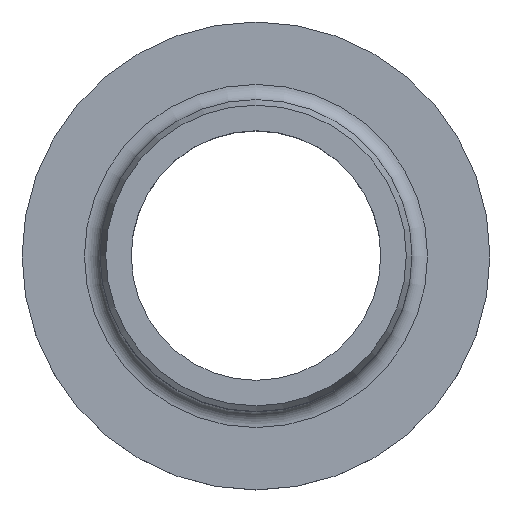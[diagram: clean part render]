
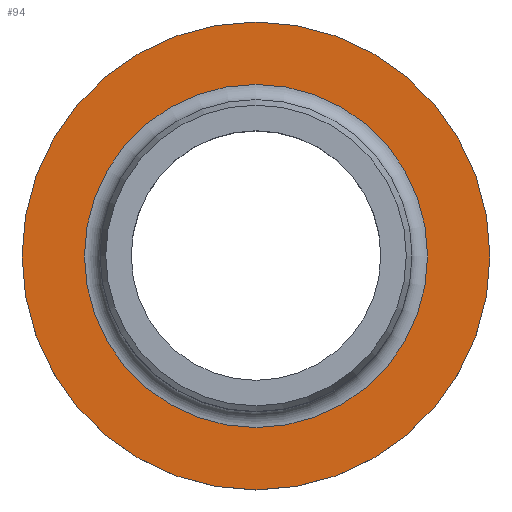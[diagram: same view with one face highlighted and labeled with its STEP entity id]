
A CAD part, top view. The second image highlights one B-rep face of the part: STEP entity #94.
In plain terms, the highlighted planar face has unit normal (0, 0, 1).
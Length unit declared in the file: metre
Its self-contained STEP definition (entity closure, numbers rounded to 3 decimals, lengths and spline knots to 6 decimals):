
#15=PLANE('',#119);
#21=ORIENTED_EDGE('',*,*,#37,.T.);
#22=ORIENTED_EDGE('',*,*,#36,.T.);
#36=EDGE_CURVE('',#44,#44,#52,.T.);
#37=EDGE_CURVE('',#45,#45,#53,.F.);
#44=VERTEX_POINT('',#173);
#45=VERTEX_POINT('',#176);
#52=CIRCLE('',#118,0.0075);
#53=CIRCLE('',#120,0.0055);
#61=EDGE_LOOP('',(#21));
#62=EDGE_LOOP('',(#22));
#77=FACE_BOUND('',#61,.T.);
#78=FACE_BOUND('',#62,.T.);
#94=ADVANCED_FACE('',(#77,#78),#15,.T.);
#118=AXIS2_PLACEMENT_3D('',#172,#141,#142);
#119=AXIS2_PLACEMENT_3D('',#174,#143,#144);
#120=AXIS2_PLACEMENT_3D('',#175,#145,#146);
#141=DIRECTION('',(0.,0.,1.));
#142=DIRECTION('',(1.,0.,0.));
#143=DIRECTION('',(0.,0.,1.));
#144=DIRECTION('',(1.,0.,0.));
#145=DIRECTION('',(0.,0.,1.));
#146=DIRECTION('',(1.,0.,0.));
#172=CARTESIAN_POINT('',(0.,0.,0.));
#173=CARTESIAN_POINT('',(0.0075,0.,0.));
#174=CARTESIAN_POINT('',(0.,0.,0.));
#175=CARTESIAN_POINT('',(0.,0.,0.));
#176=CARTESIAN_POINT('',(0.0055,0.,0.));
